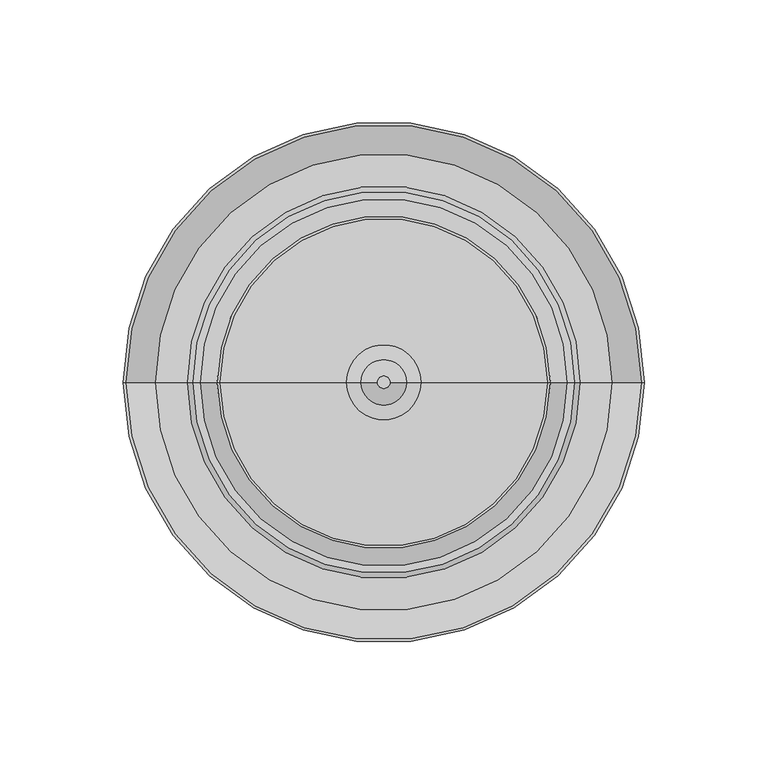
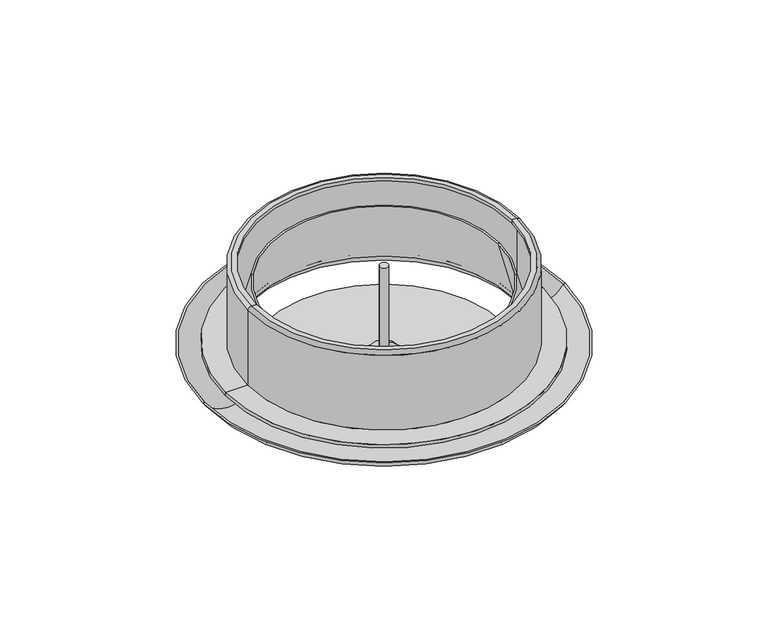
"""IFC4 building model written with IfcOpenShell, lengths in millimetres: air terminal geometry, BL_ДифузорПотолочный_Приточный_DVSP : BL_ДифузорПотолочный_Приточный_DVSP."""

import ifcopenshell
import ifcopenshell.guid

model = None  # the IFC model being written
_history = None  # IfcOwnerHistory: only IFC2X3 demands one
_inside = {}  # id of a spatial element -> (the spatial element, [elements in it])
_under = {}  # id of a project, library or spatial element -> (it, [spatial elements below it])
_declared = {}  # id of a project -> (the project, [libraries it declares])
_typed = {}  # id of a type object -> (the type object, [elements of that type])
_made_of = {}  # id of a material, layer set ... -> (it, [elements and type objects made of it])


def new_model(schema):
    """Start an empty IFC model of exactly this schema.

    Asked for "IFC4X3", IfcOpenShell would pick the latest addendum, in which some entities
    have other attributes; the version numbers below select the first issue.
    IFC2X3 requires an IfcOwnerHistory on every rooted entity: one is made here for all.
    """
    global model, _history
    if schema == "IFC4X3":
        model = ifcopenshell.file(schema_version=(4, 3, 0, 0))
    else:
        model = ifcopenshell.file(schema=schema)
    _inside.clear()
    _under.clear()
    _declared.clear()
    _typed.clear()
    _made_of.clear()
    _history = None
    if model.schema == "IFC2X3":
        org = make("IfcOrganization", Name="unknown")
        user = make(
            "IfcPersonAndOrganization",
            ThePerson=make("IfcPerson", FamilyName="unknown"),
            TheOrganization=org,
        )
        app = make(
            "IfcApplication",
            ApplicationDeveloper=org,
            Version="unknown",
            ApplicationFullName="unknown",
            ApplicationIdentifier="unknown",
        )
        _history = make(
            "IfcOwnerHistory",
            OwningUser=user,
            OwningApplication=app,
            ChangeAction="ADDED",
            CreationDate=0,
        )
    return model


def make(cls, **values):
    """One entity of the class cls with the attributes given. An attribute that is None is left unset."""
    return model.create_entity(
        cls, **{name: value for name, value in values.items() if value is not None}
    )


def rooted(cls, **values):
    """An entity with a GlobalId (a new one), such as an element, a storey or a relation."""
    return make(cls, GlobalId=ifcopenshell.guid.new(), OwnerHistory=_history, **values)


def si_unit(unit_type, name, prefix=None):
    """IfcSIUnit, for example si_unit("LENGTHUNIT", "METRE", prefix="MILLI")."""
    return make("IfcSIUnit", UnitType=unit_type, Prefix=prefix, Name=name)


def assignment(units):
    """IfcUnitAssignment: the units of a project."""
    return None if units is None else make("IfcUnitAssignment", Units=units)


def point(xyz):
    """IfcCartesianPoint."""
    return None if xyz is None else make("IfcCartesianPoint", Coordinates=xyz)


def direction(xyz):
    """IfcDirection."""
    return None if xyz is None else make("IfcDirection", DirectionRatios=xyz)


def frame(location, z_axis=None, x_axis=None):
    """IfcAxis2Placement3D, a coordinate frame: its origin and axes. An axis left out is left unset."""
    return make(
        "IfcAxis2Placement3D",
        Location=point(location),
        Axis=direction(z_axis),
        RefDirection=direction(x_axis),
    )


def frame_2d(location, x_axis=None):
    """IfcAxis2Placement2D, a coordinate frame in the plane: its origin and x axis."""
    return make(
        "IfcAxis2Placement2D", Location=point(location), RefDirection=direction(x_axis)
    )


def origin():
    """The frame at (0, 0, 0) with its axes left unset."""
    return frame((0.0, 0.0, 0.0))


def origin_with_axes():
    """The frame at (0, 0, 0) with the z axis (0, 0, 1) and the x axis (1, 0, 0) written out."""
    return frame((0.0, 0.0, 0.0), z_axis=(0.0, 0.0, 1.0), x_axis=(1.0, 0.0, 0.0))


def origin_2d():
    """The frame at (0, 0) in the plane with its x axis left unset."""
    return frame_2d((0.0, 0.0))


def place(relative_to, where):
    """IfcLocalPlacement: puts the frame where relative to a parent placement (None: the world)."""
    return make(
        "IfcLocalPlacement", PlacementRelTo=relative_to, RelativePlacement=where
    )


def context(
    kind, dimensions, precision=None, world=None, true_north=None, identifier=None
):
    """IfcGeometricRepresentationContext, for example the 3D "Model" context."""
    return make(
        "IfcGeometricRepresentationContext",
        ContextIdentifier=identifier,
        ContextType=kind,
        CoordinateSpaceDimension=dimensions,
        Precision=precision,
        WorldCoordinateSystem=world,
        TrueNorth=true_north,
    )


def project(units=None, contexts=None):
    """IfcProject with its units and contexts."""
    return rooted(
        "IfcProject",
        Name="project",
        RepresentationContexts=contexts,
        UnitsInContext=assignment(units),
    )


def spatial(cls, under=None, at=None, **own):
    """A site, building, storey or space (cls), placed at a placement, below another one or the project."""
    s = rooted(cls, ObjectPlacement=at, **own)
    if under is not None:
        _under.setdefault(under.id(), (under, []))[1].append(s)
    return s


def polyline(points):
    """IfcPolyline through the points."""
    return make("IfcPolyline", Points=[point(p) for p in points])


def circle_curve(where, radius):
    """IfcCircle in the frame where."""
    return make("IfcCircle", Position=where, Radius=radius)


def ellipse_curve(where, semi_axis1, semi_axis2):
    """IfcEllipse in the frame where."""
    return make(
        "IfcEllipse", Position=where, SemiAxis1=semi_axis1, SemiAxis2=semi_axis2
    )


def trimmed(basis, trim1, trim2, sense, master):
    """IfcTrimmedCurve: the piece of a basis curve between two trims."""
    return make(
        "IfcTrimmedCurve",
        BasisCurve=basis,
        Trim1=trim1,
        Trim2=trim2,
        SenseAgreement=sense,
        MasterRepresentation=master,
    )


def segment(curve, same_sense, transition):
    """IfcCompositeCurveSegment."""
    return make(
        "IfcCompositeCurveSegment",
        Transition=transition,
        SameSense=same_sense,
        ParentCurve=curve,
    )


def composite_curve(segments, self_intersect=None):
    """IfcCompositeCurve: segments joined end to end."""
    return make("IfcCompositeCurve", Segments=segments, SelfIntersect=self_intersect)


def outline(outer, holes=None, kind="AREA"):
    """IfcArbitraryClosedProfileDef: a profile drawn as a closed curve; with holes, ...WithVoids."""
    if holes is None:
        return make("IfcArbitraryClosedProfileDef", ProfileType=kind, OuterCurve=outer)
    return make(
        "IfcArbitraryProfileDefWithVoids",
        ProfileType=kind,
        OuterCurve=outer,
        InnerCurves=holes,
    )


def extrude(swept, where, along, depth):
    """IfcExtrudedAreaSolid: the profile swept, set in the frame where, extruded along a direction by depth."""
    return make(
        "IfcExtrudedAreaSolid",
        SweptArea=swept,
        Position=where,
        ExtrudedDirection=direction(along),
        Depth=depth,
    )


def shape(context_of_items, identifier, shape_type, items):
    """IfcShapeRepresentation: the items that make up one representation, for example the "Body"."""
    return make(
        "IfcShapeRepresentation",
        ContextOfItems=context_of_items,
        RepresentationIdentifier=identifier,
        RepresentationType=shape_type,
        Items=items,
    )


def source(mapping_origin, context_of_items, identifier, shape_type, items):
    """IfcRepresentationMap: a shape defined once, which mapped items show again and again."""
    return make(
        "IfcRepresentationMap",
        MappingOrigin=mapping_origin,
        MappedRepresentation=shape(context_of_items, identifier, shape_type, items),
    )


def transform(
    local_origin,
    x_axis=None,
    y_axis=None,
    z_axis=None,
    scale=None,
    scale2=None,
    scale3=None,
    uniform=True,
):
    """IfcCartesianTransformationOperator3D, or its non-uniform kind. x_axis, y_axis, z_axis: its Axis1, 2, 3."""
    if uniform:
        return make(
            "IfcCartesianTransformationOperator3D",
            Axis1=direction(x_axis),
            Axis2=direction(y_axis),
            LocalOrigin=point(local_origin),
            Scale=scale,
            Axis3=direction(z_axis),
        )
    return make(
        "IfcCartesianTransformationOperator3DnonUniform",
        Axis1=direction(x_axis),
        Axis2=direction(y_axis),
        LocalOrigin=point(local_origin),
        Scale=scale,
        Axis3=direction(z_axis),
        Scale2=scale2,
        Scale3=scale3,
    )


def mapped(mapping_source, mapping_target):
    """IfcMappedItem: shows the shape of a source again, moved by a transform."""
    return make(
        "IfcMappedItem", MappingSource=mapping_source, MappingTarget=mapping_target
    )


def made_of(thing, what):
    """Note that an element or type object is made of a material, layer set ...; save() writes the relation."""
    if what is not None:
        _made_of.setdefault(what.id(), (what, []))[1].append(thing)
    return thing


def element(
    cls,
    number,
    at=None,
    inside=None,
    cuts=None,
    type_object=None,
    material=None,
    context=None,
    identifier="Body",
    shape_type=None,
    held_by="IfcProductDefinitionShape",
    body=None,
    shapes=None,
    **own,
):
    """One element of the class cls, such as IfcWall. Its Tag is "e" and its number.

    at: its placement. inside: the storey or other place that contains it. cuts: it is an
    opening in that element (IfcRelVoidsElement). A single representation is given by context,
    identifier, shape_type and body (its items); several are given by shapes. held_by: the class
    of the entity that holds the representations. save() writes the other relations.
    """
    e = rooted(cls, Tag="e%d" % number, ObjectPlacement=at, **own)
    if body is not None:
        shapes = [shape(context, identifier, shape_type, body)]
    if shapes is not None:
        e.Representation = make(held_by, Representations=shapes)
    if inside is not None:
        _inside.setdefault(inside.id(), (inside, []))[1].append(e)
    if cuts is not None:
        rooted(
            "IfcRelVoidsElement", RelatingBuildingElement=cuts, RelatedOpeningElement=e
        )
    if type_object is not None:
        _typed.setdefault(type_object.id(), (type_object, []))[1].append(e)
    return made_of(e, material)


def aggregate(whole, parts):
    """IfcRelAggregates: a whole, such as a stair, and the parts it consists of."""
    return rooted("IfcRelAggregates", RelatingObject=whole, RelatedObjects=parts)


def save(model, path):
    """Write the relations noted so far, then the file.

    IfcRelAggregates (storeys below a building ...), IfcRelContainedInSpatialStructure (elements
    in a storey), IfcRelDefinesByType, IfcRelAssociatesMaterial and IfcRelDeclares: one each for
    every whole, place, type object, material and project.
    """
    for whole, parts in _under.values():
        aggregate(whole, parts)
    for where, things in _inside.values():
        rooted(
            "IfcRelContainedInSpatialStructure",
            RelatedElements=things,
            RelatingStructure=where,
        )
    for kind, things in _typed.values():
        rooted("IfcRelDefinesByType", RelatedObjects=things, RelatingType=kind)
    for what, things in _made_of.values():
        rooted("IfcRelAssociatesMaterial", RelatedObjects=things, RelatingMaterial=what)
    for by, libraries in _declared.values():
        rooted("IfcRelDeclares", RelatingContext=by, RelatedDefinitions=libraries)
    model.write(path)


def plane_surface(at):
    """IfcPlane: the flat surface through the origin of the frame at, square to its z axis."""
    return make("IfcPlane", Position=at)


def cylinder_surface(at, radius):
    """IfcCylindricalSurface: all points at the distance radius from the z axis of the frame at."""
    return make("IfcCylindricalSurface", Position=at, Radius=radius)


def revolved_surface(curve, axis_point, axis_direction):
    """IfcSurfaceOfRevolution: the curve turned about the line through axis_point along axis_direction."""
    return make(
        "IfcSurfaceOfRevolution",
        SweptCurve=make("IfcArbitraryOpenProfileDef", ProfileType="CURVE", Curve=curve),
        AxisPosition=make("IfcAxis1Placement", Location=point(axis_point), Axis=direction(axis_direction)),
    )


def advanced_brep(points, edges, surfaces, faces):
    """IfcAdvancedBrep: a solid bounded by faces that lie on surfaces and meet in shared edges.

    An edge is (start, end): straight between two places in points (the first is 0);
    or (start, end, curve); or (start, end, curve, False) where it runs against its curve.
    A face is (place in surfaces, loops), or (place, loops, False) where it looks against
    its surface's normal. A loop lists edges by number (the first is 1), with a minus sign
    where the edge is run from its end to its start. The first loop is the outer one.
    """
    corners = [point(p) for p in points]
    vertices = [make("IfcVertexPoint", VertexGeometry=c) for c in corners]
    made = []
    for start, end, *more in edges:
        made.append(
            make(
                "IfcEdgeCurve",
                EdgeStart=vertices[start],
                EdgeEnd=vertices[end],
                EdgeGeometry=more[0] if more else make("IfcPolyline", Points=[corners[start], corners[end]]),
                SameSense=more[1] if len(more) > 1 else True,
            )
        )
    hull = []
    for where, loops, *sense in faces:
        bounds = []
        for j, loop in enumerate(loops):
            ring = [make("IfcOrientedEdge", EdgeElement=made[abs(k) - 1], Orientation=k > 0) for k in loop]
            bounds.append(
                make(
                    "IfcFaceOuterBound" if j == 0 else "IfcFaceBound",
                    Bound=make("IfcEdgeLoop", EdgeList=ring),
                    Orientation=True,
                )
            )
        hull.append(make("IfcAdvancedFace", Bounds=bounds, FaceSurface=surfaces[where], SameSense=sense[0] if sense else True))
    return make("IfcAdvancedBrep", Outer=make("IfcClosedShell", CfsFaces=hull))


def air_terminal_cd9755a1(model_context):
    return source(origin(), model_context, "Body", "SolidModel", [
        extrude(outline(composite_curve([segment(trimmed(circle_curve(origin_2d(), 2.5), [point((-2.5, 0.0))], [point((2.5, 0.0))], False, "CARTESIAN"), True, "CONTINUOUS"), segment(trimmed(circle_curve(origin_2d(), 2.5), [point((2.5, 0.0))], [point((-2.5, 0.0))], False, "CARTESIAN"), True, "CONTINUOUS")], self_intersect=False)), frame((0.0, 0.0, -0.7525496), z_axis=(0.0, 0.0, 1.0), x_axis=(1.0, 0.0, 0.0)), (0.0, 0.0, 1.0), 48.7525496),
        advanced_brep(
        [(-104.5, 0.0, 0.0), (104.5, 0.0, 0.0), (105.5, 0.0, 0.0), (-105.5, 0.0, 0.0), (-77.5, 0.0, 0.0), (77.5, 0.0, 0.0), (-67.4321616, 0.0, 38.0), (67.4321616, 0.0, 38.0), (-66.4321616, 0.0, 38.0), (66.4321616, 0.0, 38.0), (-76.5, 0.0, 0.0), (76.5, 0.0, 0.0)],
        [
            (0, 1, circle_curve(frame((0.0, 0.0, 0.0), z_axis=(0.0, 0.0, -1.0), x_axis=(1.0, 0.0, 0.0)), 104.5)),
            (1, 2),
            (2, 3, circle_curve(origin_with_axes(), 105.5)),
            (3, 0),
            (1, 0, circle_curve(frame((0.0, 0.0, 0.0), z_axis=(0.0, 0.0, -1.0), x_axis=(1.0, 0.0, 0.0)), 104.5)),
            (3, 2, circle_curve(origin_with_axes(), 105.5)),
            (4, 5, circle_curve(frame((0.0, 0.0, 0.0), z_axis=(0.0, 0.0, -1.0), x_axis=(1.0, 0.0, 0.0)), 77.5)),
            (5, 1, circle_curve(frame((91.0, 0.0, 7.9888848), z_axis=(0.0, -1.0, 0.0), x_axis=(1.0, 0.0, 0.0)), 15.6866912)),
            (0, 4, circle_curve(frame((-91.0, 0.0, 7.9888848), z_axis=(0.0, -1.0, 0.0), x_axis=(-1.0, 0.0, 0.0)), 15.6866912)),
            (5, 4, circle_curve(frame((0.0, 0.0, 0.0), z_axis=(0.0, 0.0, -1.0), x_axis=(1.0, 0.0, 0.0)), 77.5)),
            (6, 7, circle_curve(frame((0.0, 0.0, 38.0), z_axis=(0.0, 0.0, -1.0), x_axis=(1.0, 0.0, 0.0)), 67.4321616)),
            (7, 5),
            (4, 6),
            (7, 6, circle_curve(frame((0.0, 0.0, 38.0), z_axis=(0.0, 0.0, -1.0), x_axis=(1.0, 0.0, 0.0)), 67.4321616)),
            (8, 9, circle_curve(frame((0.0, 0.0, 38.0), z_axis=(0.0, 0.0, -1.0), x_axis=(1.0, 0.0, 0.0)), 66.4321616)),
            (9, 7),
            (6, 8),
            (9, 8, circle_curve(frame((0.0, 0.0, 38.0), z_axis=(0.0, 0.0, -1.0), x_axis=(1.0, 0.0, 0.0)), 66.4321616)),
            (10, 11, circle_curve(frame((0.0, 0.0, 0.0), z_axis=(0.0, 0.0, -1.0), x_axis=(1.0, 0.0, 0.0)), 76.5)),
            (11, 9),
            (8, 10),
            (11, 10, circle_curve(frame((0.0, 0.0, 0.0), z_axis=(0.0, 0.0, -1.0), x_axis=(1.0, 0.0, 0.0)), 76.5)),
            (2, 11, circle_curve(frame((91.0, 0.0, 7.5317993), z_axis=(0.0, 1.0, 0.0), x_axis=(1.0, 0.0, 0.0)), 16.3394614)),
            (10, 3, circle_curve(frame((-91.0, 0.0, 7.5317993), z_axis=(0.0, 1.0, 0.0), x_axis=(-1.0, 0.0, 0.0)), 16.3394614)),
        ],
        [
            plane_surface(origin_with_axes()),
            revolved_surface(trimmed(ellipse_curve(frame((91.0, 0.0, 7.9888848), z_axis=(0.0, 1.0, 0.0), x_axis=(1.0, 0.0, 0.0)), 15.6866912, 15.6866912), [point((104.5, 0.0, 0.0))], [point((77.5, 0.0, 0.0))], True, "CARTESIAN"), (0.0, 0.0, 2314.3327925), (0.0, 0.0, 1.0)),
            revolved_surface(polyline([(77.5, 0.0, 0.0), (67.4321616, 0.0, 38.0)]), (0.0, 0.0, 2314.3327925), (0.0, 0.0, 1.0)),
            plane_surface(frame((0.0, 0.0, 38.0), z_axis=(0.0, 0.0, 1.0), x_axis=(1.0, 0.0, 0.0))),
            revolved_surface(polyline([(66.4321616, 0.0, 38.0), (76.5, 0.0, 0.0)]), (0.0, 0.0, 2314.3327925), (0.0, 0.0, 1.0)),
            revolved_surface(trimmed(ellipse_curve(frame((91.0, 0.0, 7.5317993), z_axis=(0.0, -1.0, 0.0), x_axis=(1.0, 0.0, 0.0)), 16.3394614, 16.3394614), [point((76.5, 0.0, 0.0))], [point((105.5, 0.0, 0.0))], True, "CARTESIAN"), (0.0, 0.0, 2314.3327925), (0.0, 0.0, 1.0)),
        ],
        [
            (0, [[1, 2, 3, 4]]),
            (0, [[5, -4, 6, -2]]),
            (1, [[7, 8, -1, 9]]),
            (1, [[10, -9, -5, -8]]),
            (2, [[11, 12, -7, 13]]),
            (2, [[14, -13, -10, -12]]),
            (3, [[15, 16, -11, 17]]),
            (3, [[18, -17, -14, -16]]),
            (4, [[19, 20, -15, 21]]),
            (4, [[22, -21, -18, -20]]),
            (5, [[-3, 23, -19, 24]]),
            (5, [[-6, -24, -22, -23]]),
        ],
    ),
        advanced_brep(
        [(-15.2572232, 0.0, -10.4779294), (15.2572232, 0.0, -10.4779294), (70.5, 0.0, -13.0), (-70.5, 0.0, -13.0), (70.5, 0.0, -14.0454545), (-70.5, 0.0, -14.0454545), (-7.8533291, 0.0, -6.3000711), (7.8533291, 0.0, -6.3000711), (0.0, 0.0, -1.0), (15.8143825, 0.0, -11.6103792), (-15.8143825, 0.0, -11.6103792), (0.0, 0.0, 0.0), (9.1951878, 0.0, -6.0695392), (-9.1951878, 0.0, -6.0695392)],
        [
            (0, 1, circle_curve(frame((0.0, 0.0, -10.4779294), z_axis=(0.0, 0.0, -1.0), x_axis=(1.0, 0.0, 0.0)), 15.2572232)),
            (1, 2),
            (2, 3, circle_curve(frame((0.0, 0.0, -13.0), z_axis=(0.0, 0.0, 1.0), x_axis=(1.0, 0.0, 0.0)), 70.5)),
            (3, 0),
            (1, 0, circle_curve(frame((0.0, 0.0, -10.4779294), z_axis=(0.0, 0.0, -1.0), x_axis=(1.0, 0.0, 0.0)), 15.2572232)),
            (3, 2, circle_curve(frame((0.0, 0.0, -13.0), z_axis=(0.0, 0.0, 1.0), x_axis=(1.0, 0.0, 0.0)), 70.5)),
            (2, 4),
            (4, 5, circle_curve(frame((0.0, 0.0, -14.0454545), z_axis=(0.0, 0.0, 1.0), x_axis=(1.0, 0.0, 0.0)), 70.5)),
            (5, 3),
            (5, 4, circle_curve(frame((0.0, 0.0, -14.0454545), z_axis=(0.0, 0.0, 1.0), x_axis=(1.0, 0.0, 0.0)), 70.5)),
            (6, 7, circle_curve(frame((0.0, 0.0, -6.3000711), z_axis=(0.0, 0.0, -1.0), x_axis=(1.0, 0.0, 0.0)), 7.8533291)),
            (7, 8, circle_curve(frame((-0.9998744, 0.0, -10.949887), z_axis=(0.0, -1.0, 0.0), x_axis=(1.0, 0.0, 0.0)), 10.0)),
            (8, 6, circle_curve(frame((0.9998744, 0.0, -10.949887), z_axis=(0.0, -1.0, 0.0), x_axis=(-1.0, 0.0, 0.0)), 10.0)),
            (7, 6, circle_curve(frame((0.0, 0.0, -6.3000711), z_axis=(0.0, 0.0, -1.0), x_axis=(1.0, 0.0, 0.0)), 7.8533291)),
            (4, 9),
            (9, 10, circle_curve(frame((0.0, 0.0, -11.6103792), z_axis=(0.0, 0.0, 1.0), x_axis=(1.0, 0.0, 0.0)), 15.8143825)),
            (10, 5),
            (10, 9, circle_curve(frame((0.0, 0.0, -11.6103792), z_axis=(0.0, 0.0, 1.0), x_axis=(1.0, 0.0, 0.0)), 15.8143825)),
            (11, 12, circle_curve(frame((0.0, 0.0, -10.0), z_axis=(0.0, 1.0, 0.0), x_axis=(1.0, 0.0, 0.0)), 10.0)),
            (12, 13, circle_curve(frame((0.0, 0.0, -6.0695392), z_axis=(0.0, 0.0, 1.0), x_axis=(1.0, 0.0, 0.0)), 9.1951878)),
            (13, 11, circle_curve(frame((0.0, 0.0, -10.0), z_axis=(0.0, 1.0, 0.0), x_axis=(-1.0, 0.0, 0.0)), 10.0)),
            (13, 12, circle_curve(frame((0.0, 0.0, -6.0695392), z_axis=(0.0, 0.0, 1.0), x_axis=(1.0, 0.0, 0.0)), 9.1951878)),
            (9, 7, circle_curve(frame((16.7065326, 0.0, -1.6502553), z_axis=(0.0, 1.0, 0.0), x_axis=(1.0, 0.0, 0.0)), 10.0)),
            (6, 10, circle_curve(frame((-16.7065326, 0.0, -1.6502553), z_axis=(0.0, 1.0, 0.0), x_axis=(-1.0, 0.0, 0.0)), 10.0)),
            (12, 1, circle_curve(frame((15.9192764, 0.0, -3.1953438), z_axis=(0.0, -1.0, 0.0), x_axis=(1.0, 0.0, 0.0)), 7.312617)),
            (0, 13, circle_curve(frame((-15.9192764, 0.0, -3.1953438), z_axis=(0.0, -1.0, 0.0), x_axis=(-1.0, 0.0, 0.0)), 7.312617)),
        ],
        [
            revolved_surface(polyline([(70.5, 0.0, -13.0), (15.2572232, 0.0, -10.4779294)]), (0.0, 0.0, 2314.3327925), (0.0, 0.0, 1.0)),
            cylinder_surface(frame((0.0, 0.0, 2314.3327925), z_axis=(0.0, 0.0, 1.0), x_axis=(1.0, 0.0, 0.0)), 70.5),
            revolved_surface(trimmed(ellipse_curve(frame((-0.9998744, 0.0, -10.949887), z_axis=(0.0, 1.0, 0.0), x_axis=(1.0, 0.0, 0.0)), 10.0, 10.0), [point((0.0, 0.0, -1.0))], [point((7.8533291, 0.0, -6.3000711))], True, "CARTESIAN"), (0.0, 0.0, 2314.3327925), (0.0, 0.0, 1.0)),
            revolved_surface(polyline([(15.8143825, 0.0, -11.6103792), (70.5, 0.0, -14.0454545)]), (0.0, 0.0, 2314.3327925), (0.0, 0.0, 1.0)),
            revolved_surface(trimmed(ellipse_curve(frame((0.0, 0.0, -10.0), z_axis=(0.0, -1.0, 0.0), x_axis=(1.0, 0.0, 0.0)), 10.0, 10.0), [point((9.1951878, 0.0, -6.0695392))], [point((0.0, 0.0, 0.0))], True, "CARTESIAN"), (0.0, 0.0, 2314.3327925), (0.0, 0.0, 1.0)),
            revolved_surface(trimmed(ellipse_curve(frame((16.7065326, 0.0, -1.6502553), z_axis=(0.0, -1.0, 0.0), x_axis=(1.0, 0.0, 0.0)), 10.0, 10.0), [point((7.8533291, 0.0, -6.3000711))], [point((15.8143825, 0.0, -11.6103792))], True, "CARTESIAN"), (0.0, 0.0, 2314.3327925), (0.0, 0.0, 1.0)),
            revolved_surface(trimmed(ellipse_curve(frame((15.9192764, 0.0, -3.1953438), z_axis=(0.0, 1.0, 0.0), x_axis=(1.0, 0.0, 0.0)), 7.312617, 7.312617), [point((15.2572232, 0.0, -10.4779294))], [point((9.1951878, 0.0, -6.0695392))], True, "CARTESIAN"), (0.0, 0.0, 2314.3327925), (0.0, 0.0, 1.0)),
        ],
        [
            (0, [[1, 2, 3, 4]]),
            (0, [[5, -4, 6, -2]]),
            (1, [[-3, 7, 8, 9]]),
            (1, [[-6, -9, 10, -7]]),
            (2, [[11, 12, 13]]),
            (2, [[14, -13, -12]]),
            (3, [[-8, 15, 16, 17]]),
            (3, [[-10, -17, 18, -15]]),
            (4, [[19, 20, 21]]),
            (4, [[-21, 22, -19]]),
            (5, [[-16, 23, -11, 24]]),
            (5, [[-18, -24, -14, -23]]),
            (6, [[-20, 25, -1, 26]]),
            (6, [[-22, -26, -5, -25]]),
        ],
    ),
        advanced_brep(
        [(-79.5, 0.0, 48.0), (79.5, 0.0, 48.0), (79.5, 0.0, 2.0), (-79.5, 0.0, 2.0), (-77.5, 0.0, 50.0), (77.5, 0.0, 50.0), (-74.5, 0.0, 50.0), (74.5, 0.0, 50.0), (-74.5, 0.0, 48.0), (74.5, 0.0, 48.0), (-77.5, 0.0, 48.0), (77.5, 0.0, 48.0), (-77.5, 0.0, 2.0), (77.5, 0.0, 2.0), (-79.5, 0.0, 0.0), (79.5, 0.0, 0.0), (-92.5, 0.0, 0.0), (92.5, 0.0, 0.0), (-92.5, 0.0, 2.0), (92.5, 0.0, 2.0)],
        [
            (0, 1, circle_curve(frame((0.0, 0.0, 48.0), z_axis=(0.0, 0.0, -1.0), x_axis=(1.0, 0.0, 0.0)), 79.5)),
            (1, 2),
            (2, 3, circle_curve(frame((0.0, 0.0, 2.0), z_axis=(0.0, 0.0, 1.0), x_axis=(1.0, 0.0, 0.0)), 79.5)),
            (3, 0),
            (1, 0, circle_curve(frame((0.0, 0.0, 48.0), z_axis=(0.0, 0.0, -1.0), x_axis=(1.0, 0.0, 0.0)), 79.5)),
            (3, 2, circle_curve(frame((0.0, 0.0, 2.0), z_axis=(0.0, 0.0, 1.0), x_axis=(1.0, 0.0, 0.0)), 79.5)),
            (4, 5, circle_curve(frame((0.0, 0.0, 50.0), z_axis=(0.0, 0.0, -1.0), x_axis=(1.0, 0.0, 0.0)), 77.5)),
            (5, 1, circle_curve(frame((77.5, 0.0, 48.0), z_axis=(0.0, 1.0, 0.0), x_axis=(1.0, 0.0, 0.0)), 2.0)),
            (0, 4, circle_curve(frame((-77.5, 0.0, 48.0), z_axis=(0.0, 1.0, 0.0), x_axis=(-1.0, 0.0, 0.0)), 2.0)),
            (5, 4, circle_curve(frame((0.0, 0.0, 50.0), z_axis=(0.0, 0.0, -1.0), x_axis=(1.0, 0.0, 0.0)), 77.5)),
            (6, 7, circle_curve(frame((0.0, 0.0, 50.0), z_axis=(0.0, 0.0, -1.0), x_axis=(1.0, 0.0, 0.0)), 74.5)),
            (7, 5),
            (4, 6),
            (7, 6, circle_curve(frame((0.0, 0.0, 50.0), z_axis=(0.0, 0.0, -1.0), x_axis=(1.0, 0.0, 0.0)), 74.5)),
            (8, 9, circle_curve(frame((0.0, 0.0, 48.0), z_axis=(0.0, 0.0, -1.0), x_axis=(1.0, 0.0, 0.0)), 74.5)),
            (9, 7),
            (6, 8),
            (9, 8, circle_curve(frame((0.0, 0.0, 48.0), z_axis=(0.0, 0.0, -1.0), x_axis=(1.0, 0.0, 0.0)), 74.5)),
            (10, 11, circle_curve(frame((0.0, 0.0, 48.0), z_axis=(0.0, 0.0, -1.0), x_axis=(1.0, 0.0, 0.0)), 77.5)),
            (11, 9),
            (8, 10),
            (11, 10, circle_curve(frame((0.0, 0.0, 48.0), z_axis=(0.0, 0.0, -1.0), x_axis=(1.0, 0.0, 0.0)), 77.5)),
            (12, 13, circle_curve(frame((0.0, 0.0, 2.0), z_axis=(0.0, 0.0, -1.0), x_axis=(1.0, 0.0, 0.0)), 77.5)),
            (13, 11),
            (10, 12),
            (13, 12, circle_curve(frame((0.0, 0.0, 2.0), z_axis=(0.0, 0.0, -1.0), x_axis=(1.0, 0.0, 0.0)), 77.5)),
            (14, 15, circle_curve(frame((0.0, 0.0, 0.0), z_axis=(0.0, 0.0, -1.0), x_axis=(1.0, 0.0, 0.0)), 79.5)),
            (15, 13, circle_curve(frame((79.5, 0.0, 2.0), z_axis=(0.0, 1.0, 0.0), x_axis=(1.0, 0.0, 0.0)), 2.0)),
            (12, 14, circle_curve(frame((-79.5, 0.0, 2.0), z_axis=(0.0, 1.0, 0.0), x_axis=(-1.0, 0.0, 0.0)), 2.0)),
            (15, 14, circle_curve(frame((0.0, 0.0, 0.0), z_axis=(0.0, 0.0, -1.0), x_axis=(1.0, 0.0, 0.0)), 79.5)),
            (16, 17, circle_curve(frame((0.0, 0.0, 0.0), z_axis=(0.0, 0.0, -1.0), x_axis=(1.0, 0.0, 0.0)), 92.5)),
            (17, 15),
            (14, 16),
            (17, 16, circle_curve(frame((0.0, 0.0, 0.0), z_axis=(0.0, 0.0, -1.0), x_axis=(1.0, 0.0, 0.0)), 92.5)),
            (18, 19, circle_curve(frame((0.0, 0.0, 2.0), z_axis=(0.0, 0.0, -1.0), x_axis=(1.0, 0.0, 0.0)), 92.5)),
            (19, 17),
            (16, 18),
            (19, 18, circle_curve(frame((0.0, 0.0, 2.0), z_axis=(0.0, 0.0, -1.0), x_axis=(1.0, 0.0, 0.0)), 92.5)),
            (2, 19),
            (18, 3),
        ],
        [
            cylinder_surface(frame((0.0, 0.0, 2214.3150031), z_axis=(0.0, 0.0, 1.0), x_axis=(1.0, 0.0, 0.0)), 79.5),
            revolved_surface(trimmed(ellipse_curve(frame((77.5, 0.0, 48.0), z_axis=(0.0, -1.0, 0.0), x_axis=(1.0, 0.0, 0.0)), 2.0, 2.0), [point((79.5, 0.0, 48.0))], [point((77.5, 0.0, 50.0))], True, "CARTESIAN"), (0.0, 0.0, 2214.3150031), (0.0, 0.0, 1.0)),
            plane_surface(frame((0.0, 0.0, 50.0), z_axis=(0.0, 0.0, 1.0), x_axis=(1.0, 0.0, 0.0))),
            revolved_surface(polyline([(74.5, 0.0, 50.0), (74.5, 0.0, 48.0)]), (0.0, 0.0, 2214.3150031), (0.0, 0.0, 1.0)),
            plane_surface(frame((0.0, 0.0, 48.0), z_axis=(0.0, 0.0, -1.0), x_axis=(1.0, 0.0, 0.0))),
            revolved_surface(polyline([(77.5, 0.0, 48.0), (77.5, 0.0, 2.0)]), (0.0, 0.0, 2214.3150031), (0.0, 0.0, 1.0)),
            revolved_surface(trimmed(ellipse_curve(frame((79.5, 0.0, 2.0), z_axis=(0.0, -1.0, 0.0), x_axis=(1.0, 0.0, 0.0)), 2.0, 2.0), [point((77.5, 0.0, 2.0))], [point((79.5, 0.0, 0.0))], True, "CARTESIAN"), (0.0, 0.0, 2214.3150031), (0.0, 0.0, 1.0)),
            plane_surface(frame((0.0, 0.0, 0.0), z_axis=(0.0, 0.0, -1.0), x_axis=(1.0, 0.0, 0.0))),
            cylinder_surface(frame((0.0, 0.0, 2214.3150031), z_axis=(0.0, 0.0, 1.0), x_axis=(1.0, 0.0, 0.0)), 92.5),
            plane_surface(frame((0.0, 0.0, 2.0), z_axis=(0.0, 0.0, 1.0), x_axis=(1.0, 0.0, 0.0))),
        ],
        [
            (0, [[1, 2, 3, 4]]),
            (0, [[5, -4, 6, -2]]),
            (1, [[7, 8, -1, 9]]),
            (1, [[10, -9, -5, -8]]),
            (2, [[11, 12, -7, 13]]),
            (2, [[14, -13, -10, -12]]),
            (3, [[15, 16, -11, 17]]),
            (3, [[18, -17, -14, -16]]),
            (4, [[19, 20, -15, 21]]),
            (4, [[22, -21, -18, -20]]),
            (5, [[23, 24, -19, 25]]),
            (5, [[26, -25, -22, -24]]),
            (6, [[27, 28, -23, 29]]),
            (6, [[30, -29, -26, -28]]),
            (7, [[31, 32, -27, 33]]),
            (7, [[34, -33, -30, -32]]),
            (8, [[35, 36, -31, 37]]),
            (8, [[38, -37, -34, -36]]),
            (9, [[-3, 39, -35, 40]]),
            (9, [[-6, -40, -38, -39]]),
        ],
    ),
    ])


if __name__ == "__main__":
    model = new_model("IFC4")
    model_context = context("Model", 3, world=origin())
    ifc_project = project(units=[si_unit("LENGTHUNIT", "METRE", prefix="MILLI")], contexts=[model_context])
    site = spatial("IfcSite", under=ifc_project)
    building = spatial("IfcBuilding", under=site)
    placement = place(None, origin())
    air_terminal_shape = air_terminal_cd9755a1(model_context)
    element("IfcAirTerminal", 1, ObjectType="BL_ДифузорПотолочный_Приточный_DVSP : BL_ДифузорПотолочный_Приточный_DVSP", at=placement, inside=building, context=model_context, shape_type="MappedRepresentation", body=[
        mapped(air_terminal_shape, transform((0.0, 0.0, 0.0), x_axis=(1.0, 0.0, 0.0), y_axis=(0.0, 1.0, 0.0), z_axis=(0.0, 0.0, 1.0))),
    ])
    save(model, "model.ifc")
